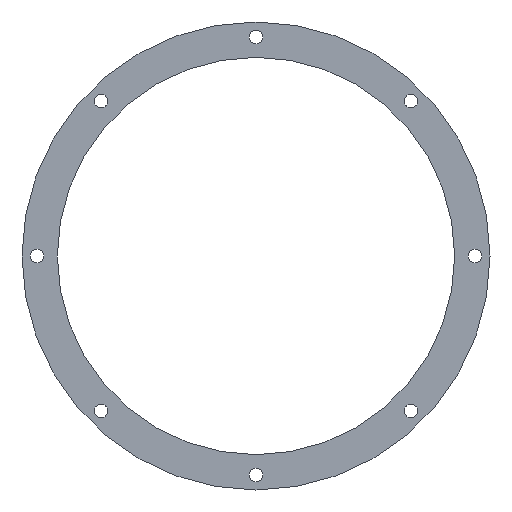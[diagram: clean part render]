
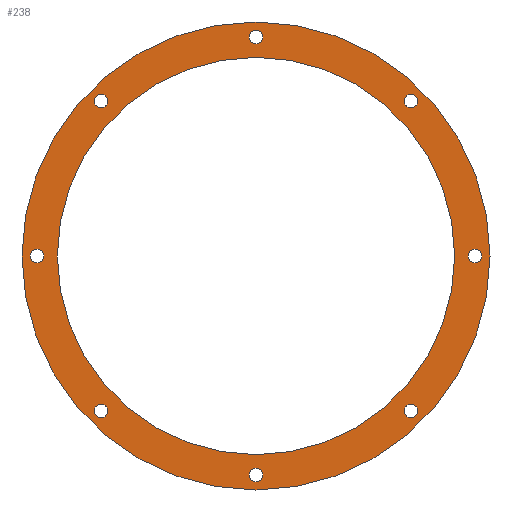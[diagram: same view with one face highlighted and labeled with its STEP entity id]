
A CAD part, front view. The second image highlights one B-rep face of the part: STEP entity #238.
In plain terms, the highlighted planar face has unit normal (0, -1, 0).
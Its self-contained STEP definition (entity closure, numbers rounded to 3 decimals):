
#16=PLANE('',#281);
#37=FACE_BOUND('',#93,.T.);
#38=FACE_BOUND('',#94,.T.);
#39=FACE_BOUND('',#95,.T.);
#40=FACE_BOUND('',#96,.T.);
#41=FACE_BOUND('',#97,.T.);
#42=FACE_BOUND('',#98,.T.);
#43=FACE_BOUND('',#99,.T.);
#44=FACE_BOUND('',#100,.T.);
#45=FACE_BOUND('',#101,.T.);
#59=FACE_OUTER_BOUND('',#92,.T.);
#92=EDGE_LOOP('',(#202));
#93=EDGE_LOOP('',(#203));
#94=EDGE_LOOP('',(#204));
#95=EDGE_LOOP('',(#205));
#96=EDGE_LOOP('',(#206));
#97=EDGE_LOOP('',(#207));
#98=EDGE_LOOP('',(#208));
#99=EDGE_LOOP('',(#209));
#100=EDGE_LOOP('',(#210));
#101=EDGE_LOOP('',(#211));
#107=CIRCLE('',#251,5.);
#109=CIRCLE('',#254,5.);
#111=CIRCLE('',#257,5.);
#113=CIRCLE('',#260,5.);
#115=CIRCLE('',#263,5.);
#117=CIRCLE('',#266,5.);
#119=CIRCLE('',#269,5.);
#121=CIRCLE('',#272,5.);
#125=CIRCLE('',#279,146.);
#127=CIRCLE('',#282,172.);
#129=VERTEX_POINT('',#363);
#131=VERTEX_POINT('',#368);
#133=VERTEX_POINT('',#373);
#135=VERTEX_POINT('',#378);
#137=VERTEX_POINT('',#383);
#139=VERTEX_POINT('',#388);
#141=VERTEX_POINT('',#393);
#143=VERTEX_POINT('',#398);
#147=VERTEX_POINT('',#409);
#149=VERTEX_POINT('',#414);
#151=EDGE_CURVE('',#129,#129,#107,.T.);
#153=EDGE_CURVE('',#131,#131,#109,.T.);
#155=EDGE_CURVE('',#133,#133,#111,.T.);
#157=EDGE_CURVE('',#135,#135,#113,.T.);
#159=EDGE_CURVE('',#137,#137,#115,.T.);
#161=EDGE_CURVE('',#139,#139,#117,.T.);
#163=EDGE_CURVE('',#141,#141,#119,.T.);
#165=EDGE_CURVE('',#143,#143,#121,.T.);
#169=EDGE_CURVE('',#147,#147,#125,.T.);
#171=EDGE_CURVE('',#149,#149,#127,.T.);
#202=ORIENTED_EDGE('',*,*,#171,.T.);
#203=ORIENTED_EDGE('',*,*,#151,.T.);
#204=ORIENTED_EDGE('',*,*,#153,.T.);
#205=ORIENTED_EDGE('',*,*,#155,.T.);
#206=ORIENTED_EDGE('',*,*,#157,.T.);
#207=ORIENTED_EDGE('',*,*,#159,.T.);
#208=ORIENTED_EDGE('',*,*,#161,.T.);
#209=ORIENTED_EDGE('',*,*,#163,.T.);
#210=ORIENTED_EDGE('',*,*,#165,.T.);
#211=ORIENTED_EDGE('',*,*,#169,.T.);
#238=ADVANCED_FACE('',(#59,#37,#38,#39,#40,#41,#42,#43,#44,#45),#16,.F.);
#251=AXIS2_PLACEMENT_3D('',#364,#291,#292);
#254=AXIS2_PLACEMENT_3D('',#369,#297,#298);
#257=AXIS2_PLACEMENT_3D('',#374,#303,#304);
#260=AXIS2_PLACEMENT_3D('',#379,#309,#310);
#263=AXIS2_PLACEMENT_3D('',#384,#315,#316);
#266=AXIS2_PLACEMENT_3D('',#389,#321,#322);
#269=AXIS2_PLACEMENT_3D('',#394,#327,#328);
#272=AXIS2_PLACEMENT_3D('',#399,#333,#334);
#279=AXIS2_PLACEMENT_3D('',#410,#347,#348);
#281=AXIS2_PLACEMENT_3D('',#413,#351,#352);
#282=AXIS2_PLACEMENT_3D('',#415,#353,#354);
#291=DIRECTION('center_axis',(0.,1.,0.));
#292=DIRECTION('ref_axis',(0.707,0.,0.707));
#297=DIRECTION('center_axis',(0.,1.,0.));
#298=DIRECTION('ref_axis',(0.,0.,1.));
#303=DIRECTION('center_axis',(0.,1.,0.));
#304=DIRECTION('ref_axis',(-0.707,0.,0.707));
#309=DIRECTION('center_axis',(0.,1.,0.));
#310=DIRECTION('ref_axis',(-1.,0.,0.));
#315=DIRECTION('center_axis',(0.,1.,0.));
#316=DIRECTION('ref_axis',(-0.707,0.,-0.707));
#321=DIRECTION('center_axis',(0.,1.,0.));
#322=DIRECTION('ref_axis',(0.,0.,-1.));
#327=DIRECTION('center_axis',(0.,1.,0.));
#328=DIRECTION('ref_axis',(0.707,0.,-0.707));
#333=DIRECTION('center_axis',(0.,1.,0.));
#334=DIRECTION('ref_axis',(1.,0.,0.));
#347=DIRECTION('center_axis',(0.,1.,0.));
#348=DIRECTION('ref_axis',(1.,0.,0.));
#351=DIRECTION('center_axis',(0.,1.,0.));
#352=DIRECTION('ref_axis',(0.,0.,1.));
#353=DIRECTION('center_axis',(0.,-1.,0.));
#354=DIRECTION('ref_axis',(1.,0.,0.));
#363=CARTESIAN_POINT('',(-110.309,-15.,117.38));
#364=CARTESIAN_POINT('Origin',(-113.844,-15.,113.844));
#368=CARTESIAN_POINT('',(-161.,-15.,5.));
#369=CARTESIAN_POINT('Origin',(-161.,-15.,0.));
#373=CARTESIAN_POINT('',(-117.38,-15.,-110.309));
#374=CARTESIAN_POINT('Origin',(-113.844,-15.,-113.844));
#378=CARTESIAN_POINT('',(-5.,-15.,-161.));
#379=CARTESIAN_POINT('Origin',(0.,-15.,-161.));
#383=CARTESIAN_POINT('',(110.309,-15.,-117.38));
#384=CARTESIAN_POINT('Origin',(113.844,-15.,-113.844));
#388=CARTESIAN_POINT('',(161.,-15.,-5.));
#389=CARTESIAN_POINT('Origin',(161.,-15.,0.));
#393=CARTESIAN_POINT('',(117.38,-15.,110.309));
#394=CARTESIAN_POINT('Origin',(113.844,-15.,113.844));
#398=CARTESIAN_POINT('',(5.,-15.,161.));
#399=CARTESIAN_POINT('Origin',(0.,-15.,161.));
#409=CARTESIAN_POINT('',(-146.,-15.,0.));
#410=CARTESIAN_POINT('Origin',(0.,-15.,0.));
#413=CARTESIAN_POINT('Origin',(0.,-15.,0.));
#414=CARTESIAN_POINT('',(-172.,-15.,0.));
#415=CARTESIAN_POINT('Origin',(0.,-15.,0.));
